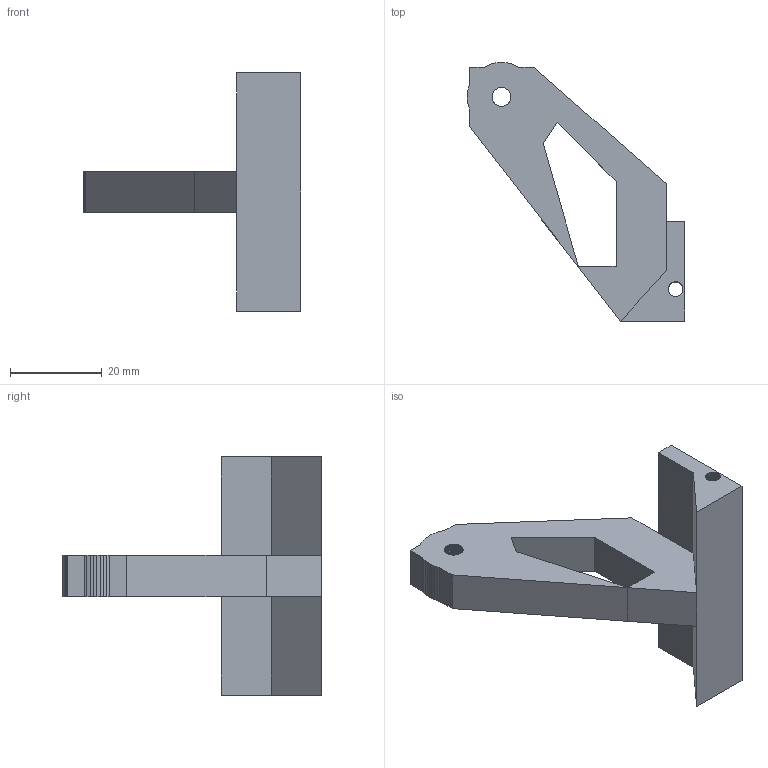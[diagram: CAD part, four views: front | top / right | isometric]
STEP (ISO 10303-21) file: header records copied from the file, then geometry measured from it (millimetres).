
FILE_DESCRIPTION(('Open CASCADE Model'),'2;1');
FILE_NAME('Open CASCADE Shape Model','2026-10-16T00:29:52',('Author'),( 'Open CASCADE'),'Open CASCADE STEP processor 7.9','Open CASCADE 7.9' ,'Unknown');
FILE_SCHEMA(('AUTOMOTIVE_DESIGN { 1 0 10303 214 1 1 1 1 }'));
Length unit declared in the file: millimetre
Products named in the file (1): Open CASCADE STEP translator 7.9 9
Bounding box: 47.5 x 56.5 x 52 mm (x, y, z)
Volume: 15500.5 mm3; surface area: 7834.3 mm2
Topology: 1 solids, 1 shells, 171 faces, 503 edges, 334 vertices
Faces by surface type: plane 171
Entity records: 11582 total; most frequent: CARTESIAN_POINT 2559, DIRECTION 1309, ORIENTED_EDGE 1006, PCURVE 1006, DEFINITIONAL_REPRESENTATION 1006, LINE 965, VECTOR 965, B_SPLINE_CURVE_WITH_KNOTS 544
